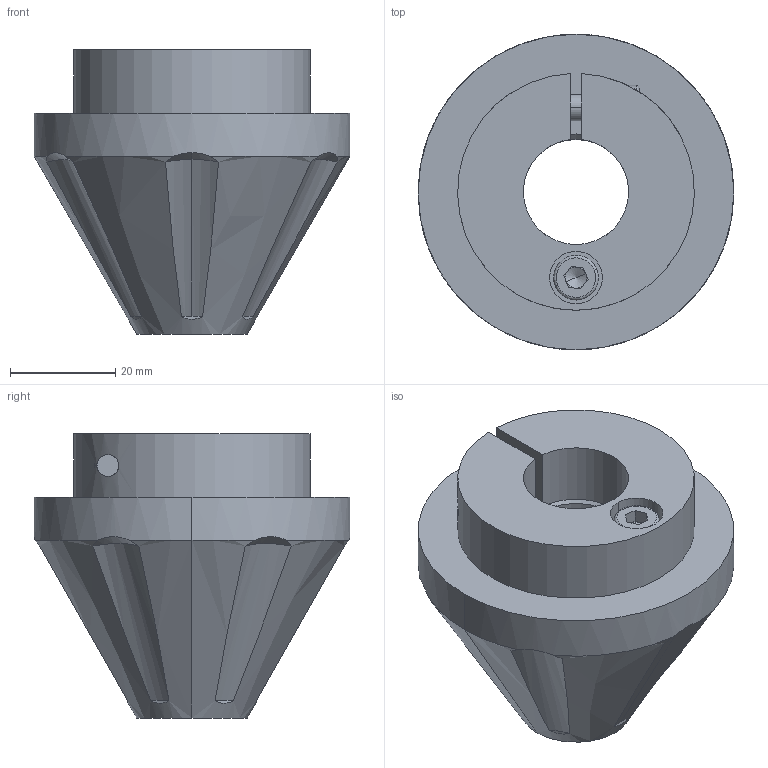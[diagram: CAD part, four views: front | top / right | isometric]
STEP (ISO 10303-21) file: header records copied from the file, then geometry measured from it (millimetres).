
FILE_DESCRIPTION (( 'STEP AP214' ), '1' );
FILE_NAME ('CL-20-F70.STEP', '2023-03-07T08:11:47', ( '' ), ( '' ), 'SwSTEP 2.0', 'SolidWorks 2022', '' );
FILE_SCHEMA (( 'AUTOMOTIVE_DESIGN' ));
Length unit declared in the file: millimetre
Products named in the file (1): CL-20-F70
Bounding box: 60 x 60 x 54 mm (x, y, z)
Volume: 70125.9 mm3; surface area: 18875 mm2
Topology: 4 solids, 4 shells, 108 faces, 254 edges, 154 vertices
Faces by surface type: plane 37, cylinder 33, cone 30, bspline 8
Entity records: 4813 total; most frequent: CARTESIAN_POINT 1156, DIRECTION 499, ORIENTED_EDGE 496, EDGE_CURVE 248, AXIS2_PLACEMENT_3D 200, VERTEX_POINT 154, EDGE_LOOP 122, UNCERTAINTY_MEASURE_WITH_UNIT 114
